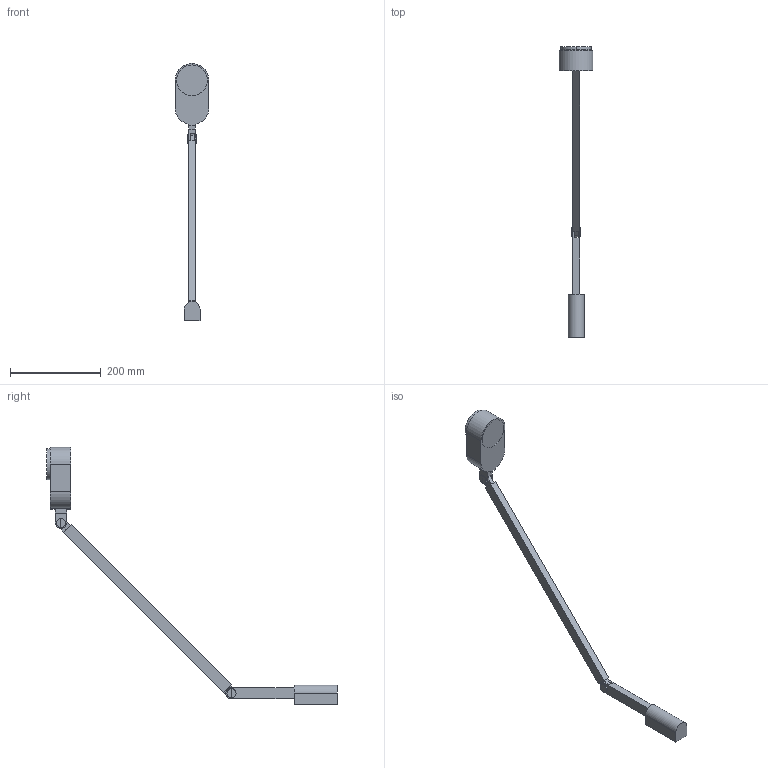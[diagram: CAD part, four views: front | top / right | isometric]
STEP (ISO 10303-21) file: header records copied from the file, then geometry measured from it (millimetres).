
FILE_DESCRIPTION(/* description */ (''),/* implementation_level */ '2;1');
FILE_NAME(/* name */ 'inviting_walllamp_arm.step',/* time_stamp */ '2025-03-12T13:21:48+01:00',/* author */ ('RenataManzini'),/* organization */ (''),/* preprocessor_version */ 'ST-DEVELOPER v20',/* originating_system */ 'AutoCAD Mechanical',/* authorisation */ '');
FILE_SCHEMA (('AUTOMOTIVE_DESIGN { 1 0 10303 214 3 1 1 }'));
Length unit declared in the file: millimetre
Products named in the file (6): Product; FamilyGeomCombination_634609-_3D_; FamilyGeomCombination_635873-_3D_; FamilyGeomCombination_643775-_3D_; FamilyGeomCombination_644365-_3D_; FamilyGeomCombination_644481-_3D_
Assembly tree (5 placements, depth 2):
  Product
    FamilyGeomCombination_634609-_3D_
    FamilyGeomCombination_635873-_3D_
    FamilyGeomCombination_643775-_3D_
    FamilyGeomCombination_644365-_3D_
    FamilyGeomCombination_644481-_3D_
Bounding box: 75 x 641.55 x 568.18 mm (x, y, z)
Volume: 816655.1 mm3; surface area: 135771.2 mm2
Topology: 13 solids, 13 shells, 117 faces, 247 edges, 157 vertices
Faces by surface type: plane 79, cylinder 38
Entity records: 3236 total; most frequent: DIRECTION 580, CARTESIAN_POINT 533, ORIENTED_EDGE 488, EDGE_CURVE 244, AXIS2_PLACEMENT_3D 205, LINE 170, VECTOR 170, VERTEX_POINT 152
